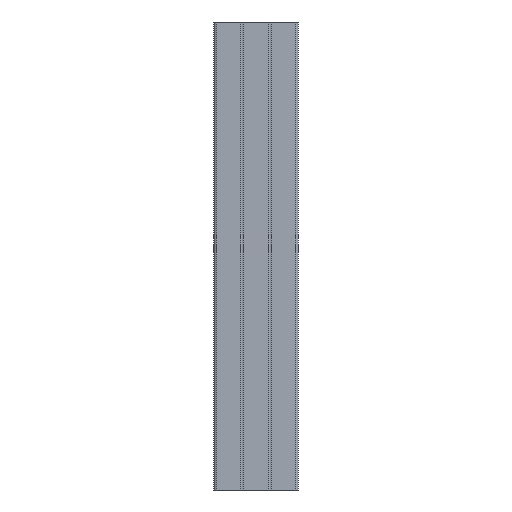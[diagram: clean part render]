
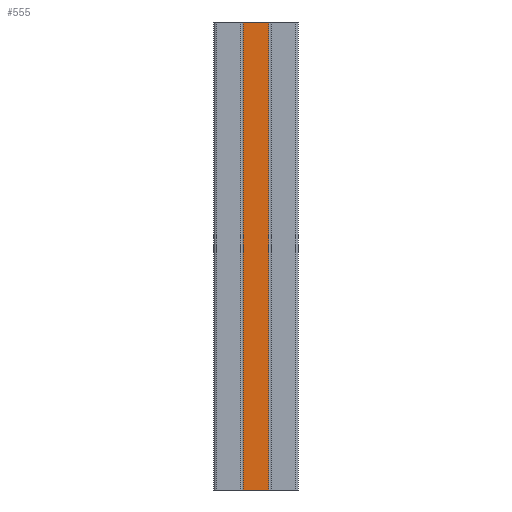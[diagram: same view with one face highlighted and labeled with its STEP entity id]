
A CAD part, front view. The second image highlights one B-rep face of the part: STEP entity #555.
In plain terms, the highlighted planar face has unit normal (0, -1, 0).
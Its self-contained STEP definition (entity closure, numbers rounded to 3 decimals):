
#113 = CARTESIAN_POINT ( 'NONE',  ( -16.35, -15., 250. ) ) ;
#143 = VERTEX_POINT ( 'NONE', #1647 ) ;
#183 = EDGE_CURVE ( 'NONE', #324, #575, #517, .T. ) ;
#311 = PLANE ( 'NONE',  #1066 ) ;
#314 = DIRECTION ( 'NONE',  ( 0., 0., -1. ) ) ;
#320 = DIRECTION ( 'NONE',  ( 0., 0., -1. ) ) ;
#324 = VERTEX_POINT ( 'NONE', #1385 ) ;
#373 = EDGE_LOOP ( 'NONE', ( #1575, #1701, #451, #812 ) ) ;
#374 = DIRECTION ( 'NONE',  ( 1., 0., 0. ) ) ;
#404 = CARTESIAN_POINT ( 'NONE',  ( -43.65, -15., 250. ) ) ;
#451 = ORIENTED_EDGE ( 'NONE', *, *, #626, .T. ) ;
#517 = LINE ( 'NONE', #113, #2024 ) ;
#524 = VECTOR ( 'NONE', #1399, 1000. ) ;
#555 = ADVANCED_FACE ( 'NONE', ( #1745 ), #311, .T. ) ;
#575 = VERTEX_POINT ( 'NONE', #1433 ) ;
#626 = EDGE_CURVE ( 'NONE', #143, #575, #1663, .T. ) ;
#812 = ORIENTED_EDGE ( 'NONE', *, *, #183, .F. ) ;
#831 = EDGE_CURVE ( 'NONE', #1092, #324, #1240, .T. ) ;
#841 = CARTESIAN_POINT ( 'NONE',  ( -75., -15., -250. ) ) ;
#903 = DIRECTION ( 'NONE',  ( 0., 0., -1. ) ) ;
#1066 = AXIS2_PLACEMENT_3D ( 'NONE', #841, #1425, #320 ) ;
#1092 = VERTEX_POINT ( 'NONE', #404 ) ;
#1140 = LINE ( 'NONE', #1931, #1449 ) ;
#1187 = CARTESIAN_POINT ( 'NONE',  ( -75., -15., -250. ) ) ;
#1240 = LINE ( 'NONE', #1439, #524 ) ;
#1294 = EDGE_CURVE ( 'NONE', #1092, #143, #1140, .T. ) ;
#1385 = CARTESIAN_POINT ( 'NONE',  ( -16.35, -15., 250. ) ) ;
#1399 = DIRECTION ( 'NONE',  ( 1., 0., 0. ) ) ;
#1425 = DIRECTION ( 'NONE',  ( 0., -1., 0. ) ) ;
#1433 = CARTESIAN_POINT ( 'NONE',  ( -16.35, -15., -250. ) ) ;
#1439 = CARTESIAN_POINT ( 'NONE',  ( -75., -15., 250. ) ) ;
#1449 = VECTOR ( 'NONE', #314, 1000. ) ;
#1575 = ORIENTED_EDGE ( 'NONE', *, *, #831, .F. ) ;
#1647 = CARTESIAN_POINT ( 'NONE',  ( -43.65, -15., -250. ) ) ;
#1663 = LINE ( 'NONE', #1187, #1850 ) ;
#1701 = ORIENTED_EDGE ( 'NONE', *, *, #1294, .T. ) ;
#1745 = FACE_OUTER_BOUND ( 'NONE', #373, .T. ) ;
#1850 = VECTOR ( 'NONE', #374, 1000. ) ;
#1931 = CARTESIAN_POINT ( 'NONE',  ( -43.65, -15., 250. ) ) ;
#2024 = VECTOR ( 'NONE', #903, 1000. ) ;
